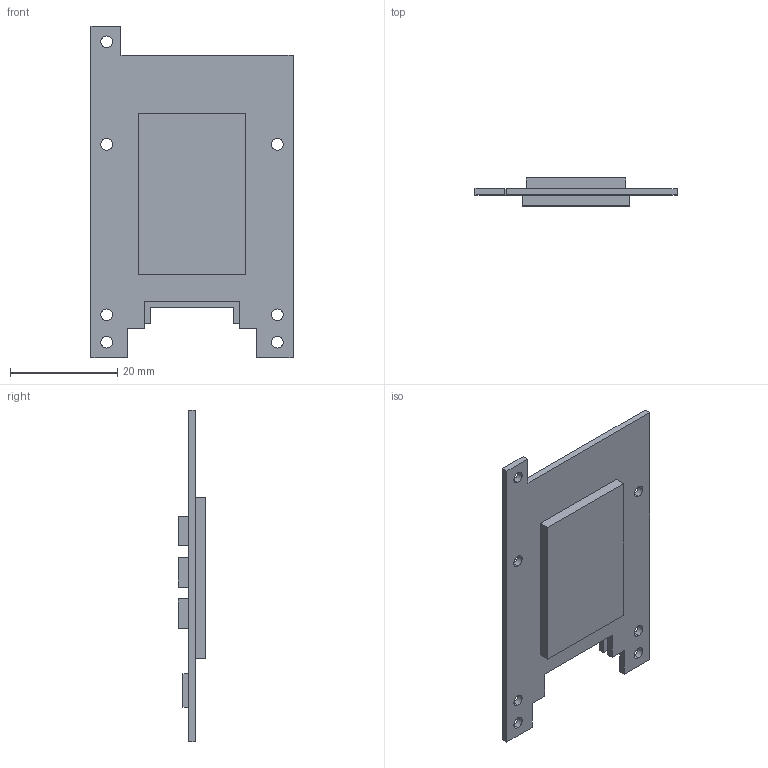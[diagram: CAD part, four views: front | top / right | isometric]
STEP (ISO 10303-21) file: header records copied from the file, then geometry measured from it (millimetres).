
FILE_DESCRIPTION(/* description */ ('VariCAD 2008 3.04 AP-203'),/* implementation_level */ '2;1');
FILE_NAME(/* name */ '0353-00-08',/* time_stamp */ '2009-03-20T17:21:05-06:00',/* author */ (''),/* organization */ (''),/* preprocessor_version */ 'ST-DEVELOPER v12',/* originating_system */ 'VariCAD 2008 3.04; kernel version (20080715)',/* authorisation */ '');
FILE_SCHEMA (('CONFIG_CONTROL_DESIGN'));
Length unit declared in the file: millimetre
Products named in the file (1): Part
Bounding box: 37.59 x 5.2 x 61.72 mm (x, y, z)
Volume: 4165.5 mm3; surface area: 4715.4 mm2
Topology: 1 solids, 1 shells, 61 faces, 163 edges, 108 vertices
Faces by surface type: plane 47, cylinder 14
Entity records: 1963 total; most frequent: CARTESIAN_POINT 334, ORIENTED_EDGE 326, DIRECTION 317, EDGE_CURVE 163, LINE 135, VECTOR 135, VERTEX_POINT 108, AXIS2_PLACEMENT_3D 91
